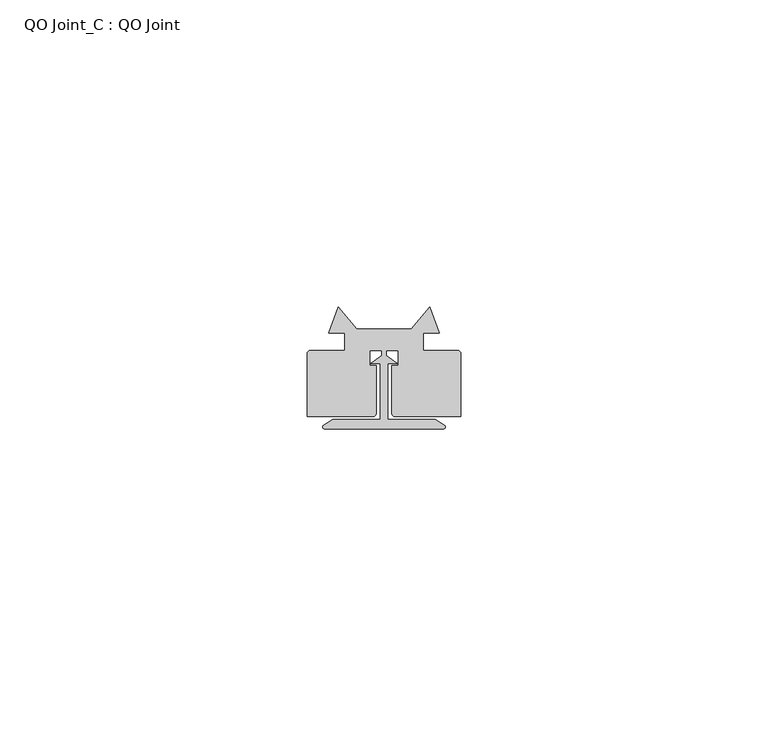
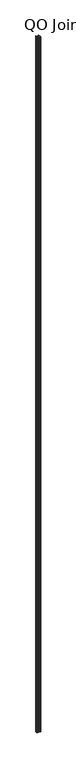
"""IFC4 building model written with IfcOpenShell, lengths in millimetres: column geometry, QO Joint_C : QO Joint."""

from ifc_helpers import new_model, si_unit, point, frame, frame_2d, origin, place, context, project, spatial, polyline, circle_curve, trimmed, segment, composite_curve, outline, extrude, source, transform, mapped, element, save


def qo_joint_c_qo_joint_5abcd862(model_context):
    return source(origin(), model_context, "Body", "SweptSolid", [
        extrude(outline(composite_curve([segment(polyline([(-0.65, 34.6160805), (-2.1650257, 34.6160805), (-0.3521968, 35.9759407), (-0.3521968, 36.7759407), (-2.3537221, 36.7759407), (-2.3537221, 34.317153), (-1.2854895, 34.317153), (-1.2854895, 26.5392087)]), True, "CONTINUOUS"), segment(trimmed(circle_curve(frame_2d((-1.7848662, 26.5150144)), 0.4999625), [point((-1.2854895, 26.5392087))], [point((-1.7848662, 26.0150519))], False, "CARTESIAN"), True, "CONTINUOUS"), segment(polyline([(-1.7848662, 26.0150519), (-12.4986723, 26.0150519), (-12.4986723, 36.190378)]), True, "CONTINUOUS"), segment(trimmed(circle_curve(frame_2d((-11.8986723, 36.190378)), 0.6), [point((-12.4986723, 36.190378))], [point((-11.8986723, 36.790378))], False, "CARTESIAN"), True, "CONTINUOUS"), segment(polyline([(-11.8986723, 36.790378), (-6.3601486, 36.790378), (-6.3601486, 39.6058207), (-8.9587496, 39.6058207), (-7.4200002, 43.8493822), (-4.3967779, 40.3004498), (4.3967779, 40.3004498), (7.4200002, 43.8493822), (8.9587496, 39.6058207), (6.3601486, 39.6058207), (6.3601486, 36.790378), (11.8986723, 36.790378)]), True, "CONTINUOUS"), segment(trimmed(circle_curve(frame_2d((11.8986723, 36.190378)), 0.6), [point((11.8986723, 36.790378))], [point((12.4986723, 36.190378))], False, "CARTESIAN"), True, "CONTINUOUS"), segment(polyline([(12.4986723, 36.190378), (12.4986723, 26.0150519), (1.7848662, 26.0150519)]), True, "CONTINUOUS"), segment(trimmed(circle_curve(frame_2d((1.7848662, 26.5150144)), 0.4999625), [point((1.7848662, 26.0150519))], [point((1.2854895, 26.5392087))], False, "CARTESIAN"), True, "CONTINUOUS"), segment(polyline([(1.2854895, 26.5392087), (1.2854895, 34.317153), (2.3537221, 34.317153), (2.3537221, 36.7759407), (0.3521968, 36.7759407), (0.3521968, 35.9759407), (2.1650257, 34.6160805), (0.65, 34.6160805), (0.65, 25.5027713), (8.3181137, 25.5027713), (9.8500891, 24.5783623)]), True, "CONTINUOUS"), segment(trimmed(circle_curve(frame_2d((9.6899304, 24.3129396)), 0.31), [point((9.8500891, 24.5783623))], [point((9.6899304, 24.0029396))], False, "CARTESIAN"), True, "CONTINUOUS"), segment(polyline([(9.6899304, 24.0029396), (-9.6900925, 24.0029396)]), True, "CONTINUOUS"), segment(trimmed(circle_curve(frame_2d((-9.6900925, 24.3129396)), 0.31), [point((-9.6900925, 24.0029396))], [point((-9.8502511, 24.5783623))], False, "CARTESIAN"), True, "CONTINUOUS"), segment(polyline([(-9.8502511, 24.5783623), (-8.3182758, 25.5027713), (-0.65, 25.5027713), (-0.65, 34.6160805)]), True, "CONTINUOUS")], self_intersect=False)), frame((0.0, 0.0, 150.0), z_axis=(0.0, 0.0, 1.0), x_axis=(1.0, 0.0, 0.0)), (0.0, 0.0, 1.0), 4500.0),
    ])


if __name__ == "__main__":
    model = new_model("IFC4")
    model_context = context("Model", 3, world=origin())
    ifc_project = project(units=[si_unit("LENGTHUNIT", "METRE", prefix="MILLI")], contexts=[model_context])
    site = spatial("IfcSite", under=ifc_project)
    building = spatial("IfcBuilding", under=site)
    placement = place(None, origin())
    qo_joint_c_qo_joint_shape = qo_joint_c_qo_joint_5abcd862(model_context)
    element("IfcColumn", 1, ObjectType="QO Joint_C : QO Joint", at=placement, inside=building, context=model_context, shape_type="MappedRepresentation", body=[
        mapped(qo_joint_c_qo_joint_shape, transform((0.0, 0.0, 0.0), x_axis=(1.0, 0.0, 0.0), y_axis=(0.0, 1.0, 0.0), z_axis=(0.0, 0.0, 1.0))),
    ])
    save(model, "model.ifc")
